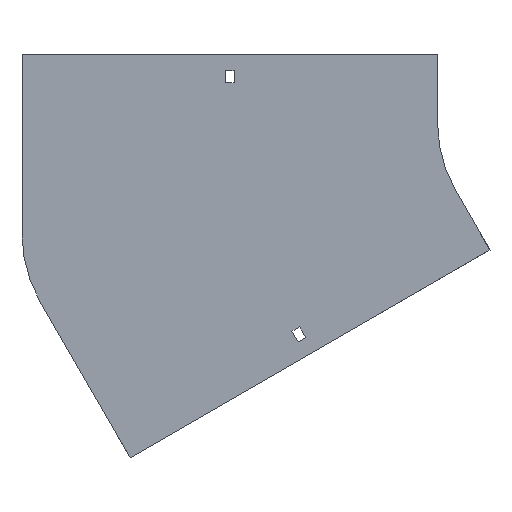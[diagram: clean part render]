
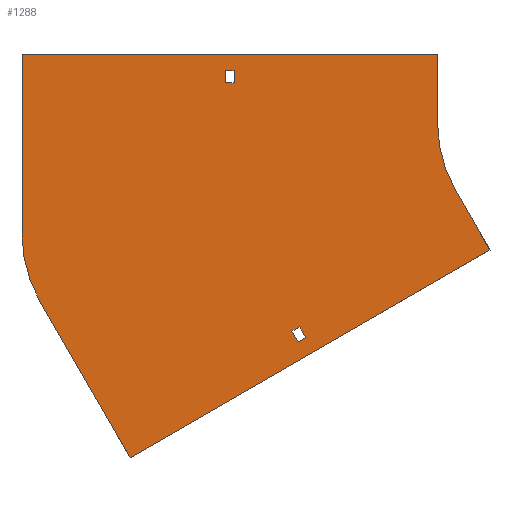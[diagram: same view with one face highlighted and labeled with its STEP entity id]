
A CAD part, front view. The second image highlights one B-rep face of the part: STEP entity #1288.
In plain terms, the highlighted planar face has unit normal (0, -1, 0).
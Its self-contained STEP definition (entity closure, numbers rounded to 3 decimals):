
#9 = LINE ( 'NONE', #741, #1644 ) ;
#13 = DIRECTION ( 'NONE',  ( 0., 0., 1. ) ) ;
#39 = VERTEX_POINT ( 'NONE', #1751 ) ;
#63 = VERTEX_POINT ( 'NONE', #1135 ) ;
#71 = ORIENTED_EDGE ( 'NONE', *, *, #1754, .F. ) ;
#127 = VERTEX_POINT ( 'NONE', #857 ) ;
#147 = FACE_BOUND ( 'NONE', #396, .T. ) ;
#157 = FACE_BOUND ( 'NONE', #988, .T. ) ;
#170 = VERTEX_POINT ( 'NONE', #1260 ) ;
#201 = ORIENTED_EDGE ( 'NONE', *, *, #1231, .F. ) ;
#230 = CARTESIAN_POINT ( 'NONE',  ( -200.924, 0., -149.49 ) ) ;
#232 = EDGE_CURVE ( 'NONE', #923, #1903, #1239, .T. ) ;
#239 = CARTESIAN_POINT ( 'NONE',  ( -255.25, 0., 38. ) ) ;
#260 = CARTESIAN_POINT ( 'NONE',  ( -100., 0., 0. ) ) ;
#269 = CARTESIAN_POINT ( 'NONE',  ( -206.553, 0., -152.74 ) ) ;
#272 = CARTESIAN_POINT ( 'NONE',  ( -404., 0., 50. ) ) ;
#275 = LINE ( 'NONE', #412, #1340 ) ;
#283 = ORIENTED_EDGE ( 'NONE', *, *, #1117, .F. ) ;
#288 = CIRCLE ( 'NONE', #1773, 100. ) ;
#310 = EDGE_CURVE ( 'NONE', #1346, #1053, #275, .T. ) ;
#344 = CARTESIAN_POINT ( 'NONE',  ( -255.25, 0., 29. ) ) ;
#348 = EDGE_CURVE ( 'NONE', #63, #923, #1194, .T. ) ;
#369 = CARTESIAN_POINT ( 'NONE',  ( -248.75, 0., 29. ) ) ;
#393 = ORIENTED_EDGE ( 'NONE', *, *, #770, .F. ) ;
#396 = EDGE_LOOP ( 'NONE', ( #1388, #1583, #283, #71 ) ) ;
#402 = CARTESIAN_POINT ( 'NONE',  ( -202.053, 0., -160.534 ) ) ;
#412 = CARTESIAN_POINT ( 'NONE',  ( -100., 0., 50. ) ) ;
#447 = LINE ( 'NONE', #402, #1002 ) ;
#479 = EDGE_CURVE ( 'NONE', #127, #170, #1072, .T. ) ;
#483 = VECTOR ( 'NONE', #1713, 1000. ) ;
#562 = VERTEX_POINT ( 'NONE', #688 ) ;
#564 = CARTESIAN_POINT ( 'NONE',  ( -61.603, 0., -93.301 ) ) ;
#565 = VECTOR ( 'NONE', #1933, 1000. ) ;
#583 = DIRECTION ( 'NONE',  ( 0., 0., 1. ) ) ;
#598 = DIRECTION ( 'NONE',  ( 0.866, 0., 0.5 ) ) ;
#606 = PLANE ( 'NONE',  #1224 ) ;
#616 = DIRECTION ( 'NONE',  ( 0.5, 0., -0.866 ) ) ;
#629 = EDGE_CURVE ( 'NONE', #1648, #1146, #447, .T. ) ;
#641 = CARTESIAN_POINT ( 'NONE',  ( -206.553, 0., -152.74 ) ) ;
#672 = DIRECTION ( 'NONE',  ( -0.5, 0., 0.866 ) ) ;
#688 = CARTESIAN_POINT ( 'NONE',  ( -86.603, 0., -50. ) ) ;
#691 = ORIENTED_EDGE ( 'NONE', *, *, #348, .T. ) ;
#695 = VECTOR ( 'NONE', #13, 1000. ) ;
#715 = VERTEX_POINT ( 'NONE', #564 ) ;
#722 = DIRECTION ( 'NONE',  ( 0., 0., -1. ) ) ;
#735 = CARTESIAN_POINT ( 'NONE',  ( -304., 0., -81.457 ) ) ;
#737 = VERTEX_POINT ( 'NONE', #272 ) ;
#740 = DIRECTION ( 'NONE',  ( 0., -1., 0. ) ) ;
#741 = CARTESIAN_POINT ( 'NONE',  ( -61.603, 0., -93.301 ) ) ;
#770 = EDGE_CURVE ( 'NONE', #1053, #562, #1829, .T. ) ;
#824 = CARTESIAN_POINT ( 'NONE',  ( -255.25, 0., 29. ) ) ;
#857 = CARTESIAN_POINT ( 'NONE',  ( -324.874, 0., -245.301 ) ) ;
#858 = DIRECTION ( 'NONE',  ( -1., 0., 0. ) ) ;
#877 = VECTOR ( 'NONE', #1688, 1000. ) ;
#878 = DIRECTION ( 'NONE',  ( -0.866, 0., -0.5 ) ) ;
#884 = DIRECTION ( 'NONE',  ( 1., 0., 0. ) ) ;
#896 = CARTESIAN_POINT ( 'NONE',  ( 0., 0., 0. ) ) ;
#901 = ORIENTED_EDGE ( 'NONE', *, *, #1544, .F. ) ;
#923 = VERTEX_POINT ( 'NONE', #824 ) ;
#961 = CARTESIAN_POINT ( 'NONE',  ( -248.75, 0., 38. ) ) ;
#965 = ORIENTED_EDGE ( 'NONE', *, *, #310, .F. ) ;
#971 = AXIS2_PLACEMENT_3D ( 'NONE', #1792, #740, #1352 ) ;
#988 = EDGE_LOOP ( 'NONE', ( #999, #1589, #1739, #691 ) ) ;
#999 = ORIENTED_EDGE ( 'NONE', *, *, #232, .T. ) ;
#1002 = VECTOR ( 'NONE', #598, 1000. ) ;
#1010 = VECTOR ( 'NONE', #672, 1000. ) ;
#1021 = LINE ( 'NONE', #1167, #1130 ) ;
#1053 = VERTEX_POINT ( 'NONE', #260 ) ;
#1072 = LINE ( 'NONE', #1524, #877 ) ;
#1087 = EDGE_CURVE ( 'NONE', #737, #1346, #1021, .T. ) ;
#1102 = ORIENTED_EDGE ( 'NONE', *, *, #479, .F. ) ;
#1117 = EDGE_CURVE ( 'NONE', #1451, #1452, #1482, .T. ) ;
#1130 = VECTOR ( 'NONE', #884, 1000. ) ;
#1135 = CARTESIAN_POINT ( 'NONE',  ( -248.75, 0., 29. ) ) ;
#1146 = VERTEX_POINT ( 'NONE', #1442 ) ;
#1167 = CARTESIAN_POINT ( 'NONE',  ( -404., 0., 50. ) ) ;
#1194 = LINE ( 'NONE', #1478, #1272 ) ;
#1200 = DIRECTION ( 'NONE',  ( 0., 0., -1. ) ) ;
#1210 = CARTESIAN_POINT ( 'NONE',  ( -202.053, 0., -160.534 ) ) ;
#1212 = LINE ( 'NONE', #641, #1831 ) ;
#1224 = AXIS2_PLACEMENT_3D ( 'NONE', #896, #1348, #1200 ) ;
#1231 = EDGE_CURVE ( 'NONE', #562, #715, #1666, .T. ) ;
#1239 = LINE ( 'NONE', #344, #483 ) ;
#1248 = CARTESIAN_POINT ( 'NONE',  ( -200.924, 0., -149.49 ) ) ;
#1258 = LINE ( 'NONE', #230, #1010 ) ;
#1260 = CARTESIAN_POINT ( 'NONE',  ( -390.603, 0., -131.457 ) ) ;
#1263 = EDGE_CURVE ( 'NONE', #1452, #1648, #1212, .T. ) ;
#1272 = VECTOR ( 'NONE', #858, 1000. ) ;
#1288 = ADVANCED_FACE ( 'NONE', ( #157, #1828, #147 ), #606, .T. ) ;
#1295 = ORIENTED_EDGE ( 'NONE', *, *, #1087, .F. ) ;
#1309 = VECTOR ( 'NONE', #616, 1000. ) ;
#1322 = VECTOR ( 'NONE', #1843, 1000. ) ;
#1340 = VECTOR ( 'NONE', #722, 1000. ) ;
#1346 = VERTEX_POINT ( 'NONE', #1703 ) ;
#1348 = DIRECTION ( 'NONE',  ( 0., -1., 0. ) ) ;
#1352 = DIRECTION ( 'NONE',  ( 0., 0., -1. ) ) ;
#1359 = CARTESIAN_POINT ( 'NONE',  ( -86.603, 0., -50. ) ) ;
#1388 = ORIENTED_EDGE ( 'NONE', *, *, #629, .F. ) ;
#1424 = ORIENTED_EDGE ( 'NONE', *, *, #1882, .F. ) ;
#1442 = CARTESIAN_POINT ( 'NONE',  ( -196.424, 0., -157.284 ) ) ;
#1451 = VERTEX_POINT ( 'NONE', #1248 ) ;
#1452 = VERTEX_POINT ( 'NONE', #1861 ) ;
#1478 = CARTESIAN_POINT ( 'NONE',  ( -255.25, 0., 29. ) ) ;
#1482 = LINE ( 'NONE', #269, #565 ) ;
#1492 = CARTESIAN_POINT ( 'NONE',  ( -404., 0., -81.457 ) ) ;
#1512 = DIRECTION ( 'NONE',  ( 0.5, 0., -0.866 ) ) ;
#1524 = CARTESIAN_POINT ( 'NONE',  ( -324.874, 0., -245.301 ) ) ;
#1525 = LINE ( 'NONE', #1492, #695 ) ;
#1544 = EDGE_CURVE ( 'NONE', #170, #39, #288, .T. ) ;
#1583 = ORIENTED_EDGE ( 'NONE', *, *, #1263, .F. ) ;
#1589 = ORIENTED_EDGE ( 'NONE', *, *, #1698, .T. ) ;
#1599 = ORIENTED_EDGE ( 'NONE', *, *, #1634, .F. ) ;
#1603 = VECTOR ( 'NONE', #1808, 1000. ) ;
#1634 = EDGE_CURVE ( 'NONE', #39, #737, #1525, .T. ) ;
#1644 = VECTOR ( 'NONE', #878, 1000. ) ;
#1648 = VERTEX_POINT ( 'NONE', #1210 ) ;
#1666 = LINE ( 'NONE', #1359, #1309 ) ;
#1674 = CARTESIAN_POINT ( 'NONE',  ( -255.25, 0., 38. ) ) ;
#1688 = DIRECTION ( 'NONE',  ( -0.5, 0., 0.866 ) ) ;
#1698 = EDGE_CURVE ( 'NONE', #1903, #1777, #1817, .T. ) ;
#1703 = CARTESIAN_POINT ( 'NONE',  ( -100., 0., 50. ) ) ;
#1713 = DIRECTION ( 'NONE',  ( 0., 0., 1. ) ) ;
#1721 = LINE ( 'NONE', #369, #1322 ) ;
#1739 = ORIENTED_EDGE ( 'NONE', *, *, #1778, .T. ) ;
#1751 = CARTESIAN_POINT ( 'NONE',  ( -404., 0., -81.457 ) ) ;
#1754 = EDGE_CURVE ( 'NONE', #1146, #1451, #1258, .T. ) ;
#1765 = DIRECTION ( 'NONE',  ( 0., 1., 0. ) ) ;
#1773 = AXIS2_PLACEMENT_3D ( 'NONE', #735, #1765, #583 ) ;
#1777 = VERTEX_POINT ( 'NONE', #961 ) ;
#1778 = EDGE_CURVE ( 'NONE', #1777, #63, #1721, .T. ) ;
#1792 = CARTESIAN_POINT ( 'NONE',  ( 0., 0., 0. ) ) ;
#1808 = DIRECTION ( 'NONE',  ( 1., 0., 0. ) ) ;
#1817 = LINE ( 'NONE', #1674, #1603 ) ;
#1828 = FACE_OUTER_BOUND ( 'NONE', #1876, .T. ) ;
#1829 = CIRCLE ( 'NONE', #971, 100. ) ;
#1831 = VECTOR ( 'NONE', #1512, 1000. ) ;
#1843 = DIRECTION ( 'NONE',  ( 0., 0., -1. ) ) ;
#1861 = CARTESIAN_POINT ( 'NONE',  ( -206.553, 0., -152.74 ) ) ;
#1876 = EDGE_LOOP ( 'NONE', ( #1295, #1599, #901, #1102, #1424, #201, #393, #965 ) ) ;
#1882 = EDGE_CURVE ( 'NONE', #715, #127, #9, .T. ) ;
#1903 = VERTEX_POINT ( 'NONE', #239 ) ;
#1933 = DIRECTION ( 'NONE',  ( -0.866, 0., -0.5 ) ) ;
